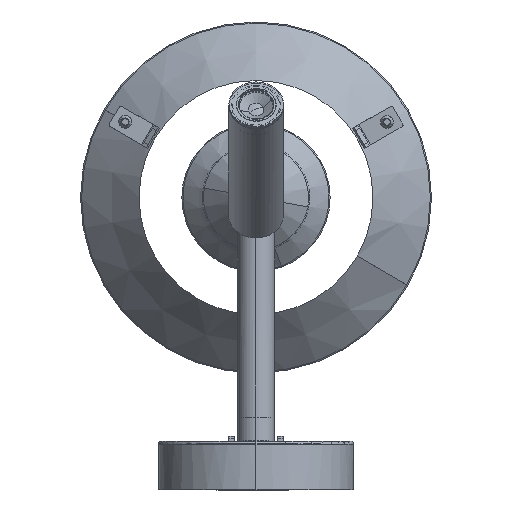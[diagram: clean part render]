
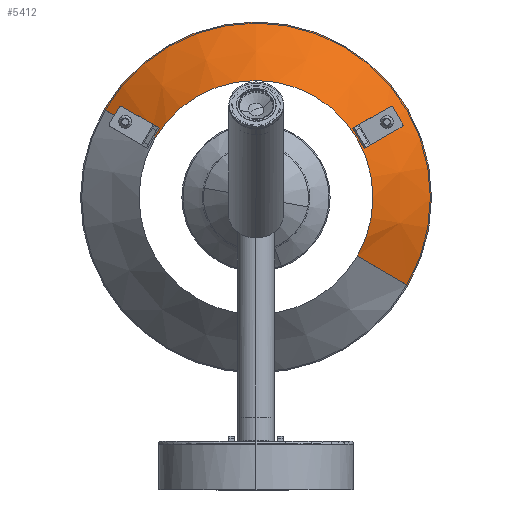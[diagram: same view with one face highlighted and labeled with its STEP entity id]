
A CAD part, front view. The second image highlights one B-rep face of the part: STEP entity #5412.
In plain terms, the highlighted conical face has half-angle 45 degrees and reference radius 215.526 mm.
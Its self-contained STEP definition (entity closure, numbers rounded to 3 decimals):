
#153=B_SPLINE_CURVE_WITH_KNOTS('',3,(#11039,#11040,#11041,#11042,#11043),
 .UNSPECIFIED.,.F.,.F.,(4,1,4),(0.,0.5,1.),.UNSPECIFIED.);
#154=B_SPLINE_CURVE_WITH_KNOTS('',3,(#11052,#11053,#11054,#11055,#11056),
 .UNSPECIFIED.,.F.,.F.,(4,1,4),(0.,0.5,1.),.UNSPECIFIED.);
#160=B_SPLINE_CURVE_WITH_KNOTS('',3,(#11151,#11152,#11153,#11154,#11155),
 .UNSPECIFIED.,.F.,.F.,(4,1,4),(0.,0.5,1.),.UNSPECIFIED.);
#221=FACE_BOUND('',#1382,.T.);
#232=(
BOUNDED_CURVE()
B_SPLINE_CURVE(2,(#11121,#11122,#11123),.UNSPECIFIED.,.F.,.F.)
B_SPLINE_CURVE_WITH_KNOTS((3,3),(-98.774,-89.538),
 .UNSPECIFIED.)
CURVE()
GEOMETRIC_REPRESENTATION_ITEM()
RATIONAL_B_SPLINE_CURVE((1.,1.,1.))
REPRESENTATION_ITEM('')
);
#234=(
BOUNDED_CURVE()
B_SPLINE_CURVE(2,(#11226,#11227,#11228),.UNSPECIFIED.,.F.,.F.)
B_SPLINE_CURVE_WITH_KNOTS((3,3),(-98.774,-94.156),
 .UNSPECIFIED.)
CURVE()
GEOMETRIC_REPRESENTATION_ITEM()
RATIONAL_B_SPLINE_CURVE((1.,1.,1.))
REPRESENTATION_ITEM('')
);
#261=CONICAL_SURFACE('',#6008,215.526,0.785);
#538=CIRCLE('',#5962,90.);
#548=CIRCLE('',#5985,63.889);
#552=CIRCLE('',#5999,63.889);
#555=CIRCLE('',#6009,60.);
#1002=FACE_OUTER_BOUND('',#1381,.T.);
#1381=EDGE_LOOP('',(#4757,#4758,#4759,#4760,#4761,#4762,#4763,#4764));
#1382=EDGE_LOOP('',(#4765,#4766,#4767,#4768));
#1760=LINE('',#11230,#2127);
#1761=LINE('',#11231,#2128);
#1762=LINE('',#11233,#2129);
#2127=VECTOR('',#7482,1.);
#2128=VECTOR('',#7483,1.);
#2129=VECTOR('',#7486,1.);
#2544=VERTEX_POINT('',#10943);
#2546=VERTEX_POINT('',#10947);
#2568=VERTEX_POINT('',#11035);
#2570=VERTEX_POINT('',#11038);
#2572=VERTEX_POINT('',#11048);
#2574=VERTEX_POINT('',#11051);
#2589=VERTEX_POINT('',#11126);
#2591=VERTEX_POINT('',#11130);
#2596=VERTEX_POINT('',#11147);
#2598=VERTEX_POINT('',#11150);
#2604=VERTEX_POINT('',#11179);
#2613=VERTEX_POINT('',#11222);
#3251=EDGE_CURVE('',#2544,#2546,#538,.T.);
#3290=EDGE_CURVE('',#2570,#2568,#153,.T.);
#3294=EDGE_CURVE('',#2574,#2572,#154,.T.);
#3302=EDGE_CURVE('',#2568,#2574,#548,.T.);
#3319=EDGE_CURVE('',#2572,#2570,#232,.T.);
#3329=EDGE_CURVE('',#2598,#2596,#160,.T.);
#3337=EDGE_CURVE('',#2604,#2598,#552,.T.);
#3356=EDGE_CURVE('',#2596,#2613,#234,.T.);
#3357=EDGE_CURVE('',#2604,#2546,#1760,.T.);
#3358=EDGE_CURVE('',#2591,#2613,#1761,.T.);
#3359=EDGE_CURVE('',#2589,#2591,#555,.T.);
#3360=EDGE_CURVE('',#2544,#2589,#1762,.T.);
#4757=ORIENTED_EDGE('',*,*,#3357,.F.);
#4758=ORIENTED_EDGE('',*,*,#3337,.T.);
#4759=ORIENTED_EDGE('',*,*,#3329,.T.);
#4760=ORIENTED_EDGE('',*,*,#3356,.T.);
#4761=ORIENTED_EDGE('',*,*,#3358,.F.);
#4762=ORIENTED_EDGE('',*,*,#3359,.F.);
#4763=ORIENTED_EDGE('',*,*,#3360,.F.);
#4764=ORIENTED_EDGE('',*,*,#3251,.T.);
#4765=ORIENTED_EDGE('',*,*,#3302,.T.);
#4766=ORIENTED_EDGE('',*,*,#3294,.T.);
#4767=ORIENTED_EDGE('',*,*,#3319,.T.);
#4768=ORIENTED_EDGE('',*,*,#3290,.T.);
#5412=ADVANCED_FACE('',(#1002,#221),#261,.T.);
#5962=AXIS2_PLACEMENT_3D('',#10949,#7318,#7319);
#5985=AXIS2_PLACEMENT_3D('',#11080,#7397,#7398);
#5999=AXIS2_PLACEMENT_3D('',#11180,#7449,#7450);
#6008=AXIS2_PLACEMENT_3D('',#11229,#7480,#7481);
#6009=AXIS2_PLACEMENT_3D('',#11232,#7484,#7485);
#7318=DIRECTION('center_axis',(0.,-1.,0.));
#7319=DIRECTION('ref_axis',(-0.866,0.,0.5));
#7397=DIRECTION('center_axis',(0.,1.,0.));
#7398=DIRECTION('ref_axis',(-0.866,0.,0.5));
#7449=DIRECTION('center_axis',(0.,1.,0.));
#7450=DIRECTION('ref_axis',(-0.866,0.,0.5));
#7480=DIRECTION('center_axis',(0.,1.,0.));
#7481=DIRECTION('ref_axis',(-0.866,0.,0.5));
#7482=DIRECTION('',(-0.612,0.707,0.354));
#7483=DIRECTION('',(-0.612,0.707,0.354));
#7484=DIRECTION('center_axis',(0.,-1.,0.));
#7485=DIRECTION('ref_axis',(-0.866,0.,0.5));
#7486=DIRECTION('',(-0.612,-0.707,0.354));
#10943=CARTESIAN_POINT('',(77.923,268.511,104.967));
#10947=CARTESIAN_POINT('',(-77.923,268.511,195.033));
#10949=CARTESIAN_POINT('Origin',(0.,268.511,
150.));
#11035=CARTESIAN_POINT('',(53.098,242.4,185.53));
#11038=CARTESIAN_POINT('',(50.455,239.289,183.885));
#11039=CARTESIAN_POINT('Ctrl Pts',(50.455,239.289,183.885));
#11040=CARTESIAN_POINT('Ctrl Pts',(50.896,239.807,184.159));
#11041=CARTESIAN_POINT('Ctrl Pts',(51.776,240.844,184.708));
#11042=CARTESIAN_POINT('Ctrl Pts',(52.658,241.881,185.256));
#11043=CARTESIAN_POINT('Ctrl Pts',(53.098,242.4,185.53));
#11048=CARTESIAN_POINT('',(54.596,239.289,176.706));
#11051=CARTESIAN_POINT('',(57.344,242.4,178.17));
#11052=CARTESIAN_POINT('Ctrl Pts',(57.344,242.4,178.17));
#11053=CARTESIAN_POINT('Ctrl Pts',(56.886,241.881,177.926));
#11054=CARTESIAN_POINT('Ctrl Pts',(55.97,240.844,177.438));
#11055=CARTESIAN_POINT('Ctrl Pts',(55.054,239.807,176.95));
#11056=CARTESIAN_POINT('Ctrl Pts',(54.596,239.289,176.706));
#11080=CARTESIAN_POINT('Origin',(0.,242.4,150.));
#11121=CARTESIAN_POINT('Ctrl Pts',(54.596,239.289,176.706));
#11122=CARTESIAN_POINT('Ctrl Pts',(52.648,239.147,180.366));
#11123=CARTESIAN_POINT('Ctrl Pts',(50.455,239.289,183.885));
#11126=CARTESIAN_POINT('',(51.949,238.511,119.978));
#11130=CARTESIAN_POINT('',(-51.949,238.511,180.022));
#11147=CARTESIAN_POINT('',(-50.426,239.289,183.928));
#11150=CARTESIAN_POINT('',(-53.068,242.4,185.576));
#11151=CARTESIAN_POINT('Ctrl Pts',(-53.068,242.4,185.576));
#11152=CARTESIAN_POINT('Ctrl Pts',(-52.627,241.881,185.302));
#11153=CARTESIAN_POINT('Ctrl Pts',(-51.747,240.844,184.753));
#11154=CARTESIAN_POINT('Ctrl Pts',(-50.866,239.807,184.203));
#11155=CARTESIAN_POINT('Ctrl Pts',(-50.426,239.289,183.928));
#11179=CARTESIAN_POINT('',(-55.316,242.4,181.968));
#11180=CARTESIAN_POINT('Origin',(0.,242.4,150.));
#11222=CARTESIAN_POINT('',(-52.561,239.218,180.376));
#11226=CARTESIAN_POINT('Ctrl Pts',(-50.426,239.289,183.928));
#11227=CARTESIAN_POINT('Ctrl Pts',(-51.524,239.218,182.17));
#11228=CARTESIAN_POINT('Ctrl Pts',(-52.561,239.218,180.376));
#11229=CARTESIAN_POINT('Origin',(0.,394.037,
150.));
#11230=CARTESIAN_POINT('',(-55.316,242.4,181.968));
#11231=CARTESIAN_POINT('',(-51.949,238.511,180.022));
#11232=CARTESIAN_POINT('Origin',(0.,238.511,
150.));
#11233=CARTESIAN_POINT('',(77.923,268.511,104.967));
